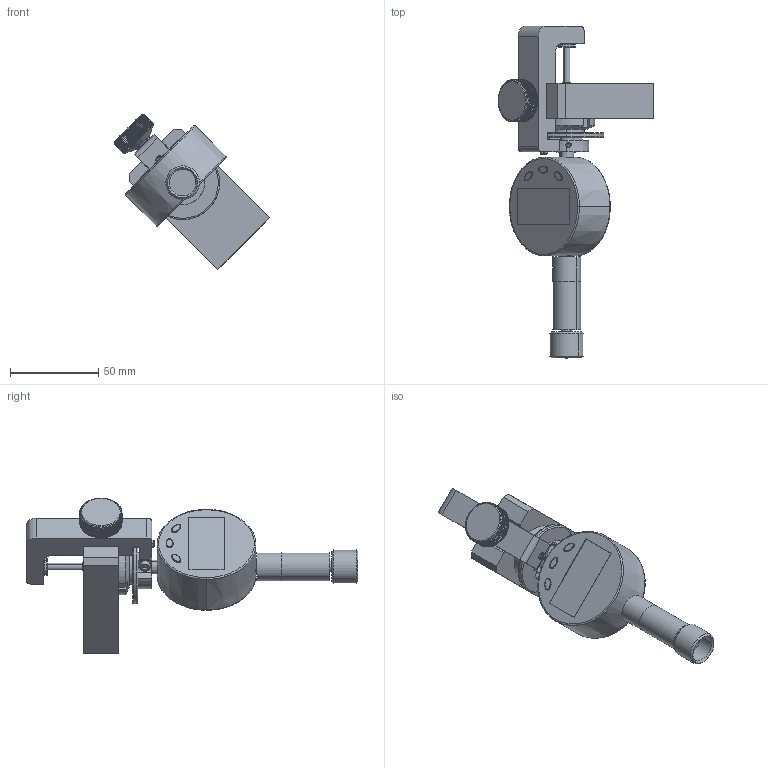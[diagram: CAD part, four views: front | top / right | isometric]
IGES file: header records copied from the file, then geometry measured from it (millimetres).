
Start section: START RECORD GO HERE.
Global section: file name: S0002-02-Teller_ZSB_MESSUHR_FEST+MASTER_BUGEL_AN_MESSUHR_AllCATPart.igs; native system: IBM CATIA IGES - CATIA Version 5 Release 19 ; preprocessor: CATIA Version 5 Release 19 ; author: Administrator; organization: SCHROPPFSC; date: 20101107.115345; units: millimetre
Bounding box: 88.39 x 188.5 x 88.39 mm (x, y, z)
Surface area: 51928.8 mm2 (no closed solid volume)
Topology: 0 solids, 0 shells, 650 faces, 3354 edges, 3349 vertices
Faces by surface type: plane 320, revolution 318, extrusion 6, bspline 6
